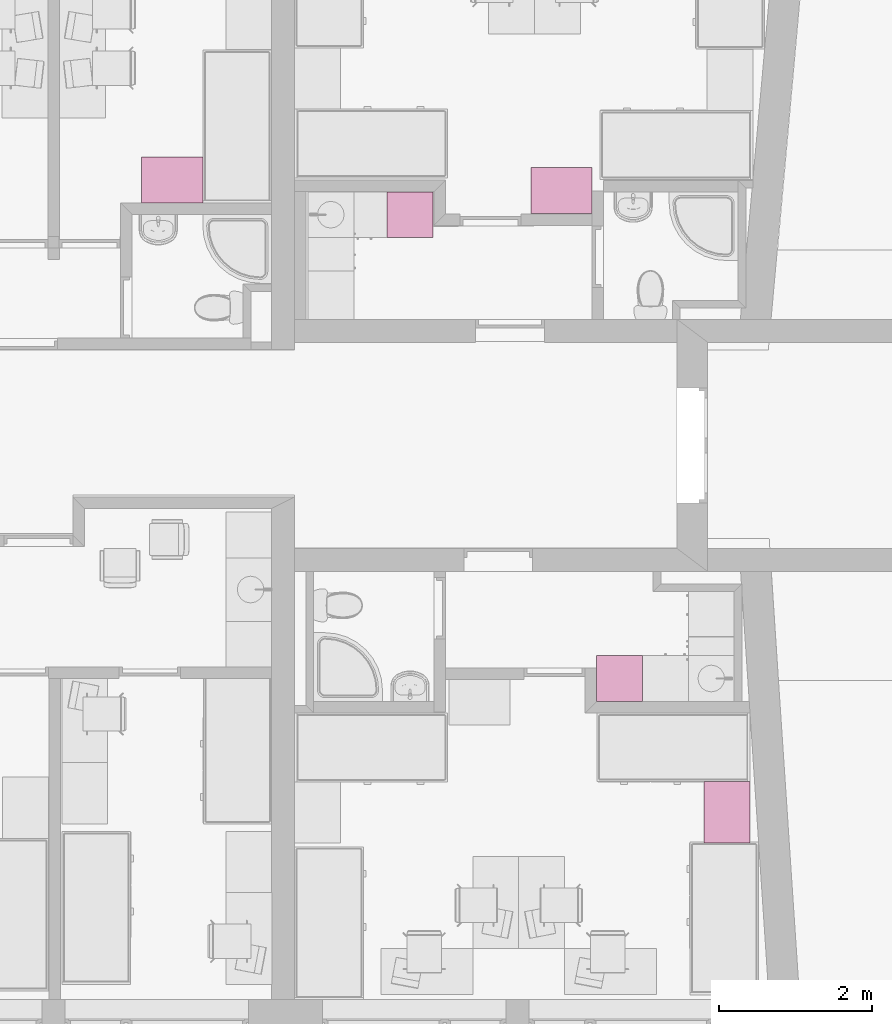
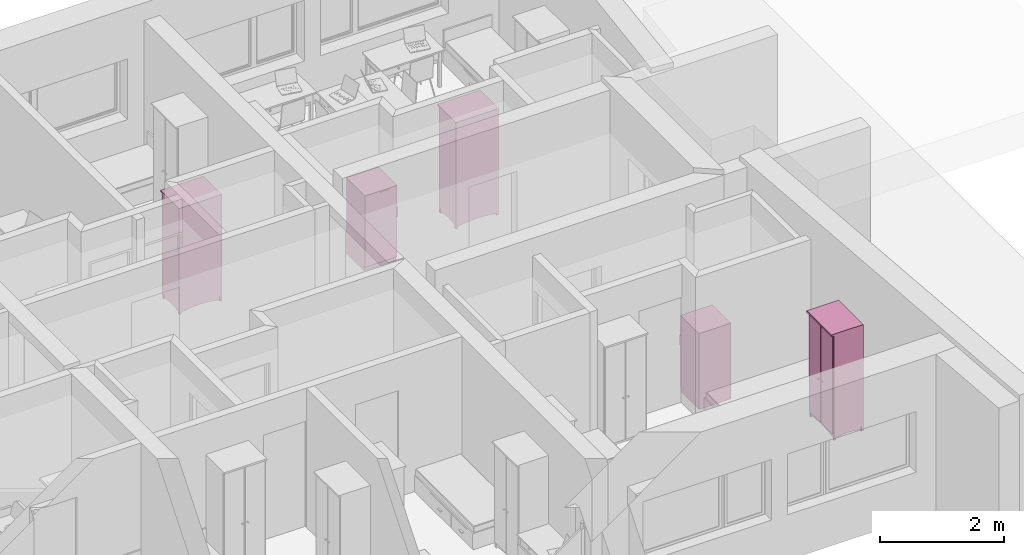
# One storey, part 149 of 172: 5 furnishings.
"""IFC2X3 building model written with IfcOpenShell, lengths in millimetres."""

from ifc_helpers import new_model, entity, si_unit, converted_unit, money_unit, direction, frame, origin_with_axes, place, context, subcontext, project, spatial, open_shell, faceted_brep, surface_model, source, transform, mapped, material, material_list, type_object, element, save


model = new_model("IFC2X3")

# Units and contexts
model_context = context("Model", 3, precision=1e-05, world=origin_with_axes(), true_north=direction((0.0, 1.0)))
body_context = subcontext(model_context, "Body", "Model", "MODEL_VIEW")
ifc_project = project(units=[si_unit("LENGTHUNIT", "METRE", prefix="MILLI"), si_unit("AREAUNIT", "SQUARE_METRE"), si_unit("VOLUMEUNIT", "CUBIC_METRE"), converted_unit("PLANEANGLEUNIT", "DEGREE", entity("IfcPlaneAngleMeasure", 0.0174532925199), si_unit("PLANEANGLEUNIT", "RADIAN"), dimensions=[0, 0, 0, 0, 0, 0, 0]), si_unit("SOLIDANGLEUNIT", "STERADIAN"), money_unit("USD"), converted_unit("TIMEUNIT", "Year", entity("IfcTimeMeasure", 31556926.0), si_unit("TIMEUNIT", "SECOND"), dimensions=[0, 0, 0, 0, 0, 0, 0]), si_unit("MASSUNIT", "GRAM"), si_unit("THERMODYNAMICTEMPERATUREUNIT", "DEGREE_CELSIUS"), si_unit("LUMINOUSINTENSITYUNIT", "LUMEN")], contexts=[model_context])

# Site, building, storey
site_placement = place(None, origin_with_axes())
site = spatial("IfcSite", under=ifc_project, at=site_placement, Name="Site", CompositionType="ELEMENT")
building_placement = place(site_placement, origin_with_axes())
building = spatial("IfcBuilding", under=site, at=building_placement, Name="Building", CompositionType="ELEMENT")
storey_placement = place(building_placement, frame((0.0, 0.0, 3200.0), z_axis=(0.0, 0.0, 1.0), x_axis=(1.0, 0.0, 0.0)))
storey = spatial("IfcBuildingStorey", under=building, at=storey_placement, Name="3KORRUS", CompositionType="ELEMENT", Elevation=3200.0)

# Furnishings
ifc_material = material(Name="Background")
ifc_material_list = material_list([ifc_material])
furnishing_element_type_1 = type_object("IfcFurnishingElementType", Name="Cupboard 19")
shared_shape_1 = source(origin_with_axes(), body_context, "Body", "Brep", [
    faceted_brep([(780.0, 600.0, 120.0), (780.0, 600.0, 2050.0), (780.0, 580.0, 2050.0), (780.0, 580.0, 120.0), (20.0, 600.0, 120.0), (20.0, 600.0, 2050.0), (20.0, 580.0, 2050.0), (20.0, 580.0, 120.0)], [[[0, 1, 2, 3]], [[4, 5, 1, 0]], [[1, 5, 6, 2]], [[3, 2, 6, 7]], [[0, 3, 7, 4]], [[7, 6, 5, 4]]]),
    faceted_brep([(0.0, 50.0, 100.0), (0.0, 600.0, 100.0), (20.0, 600.0, 100.0), (20.0, 50.0, 100.0), (0.0, 50.0, 2070.0), (0.0, 600.0, 2070.0), (20.0, 600.0, 2070.0), (20.0, 50.0, 2070.0)], [[[0, 1, 2, 3]], [[0, 4, 5, 1]], [[1, 5, 6, 2]], [[2, 6, 7, 3]], [[3, 7, 4, 0]], [[7, 6, 5, 4]]]),
    faceted_brep([(780.0, 50.0, 100.0), (780.0, 600.0, 100.0), (800.0, 600.0, 100.0), (800.0, 50.0, 100.0), (780.0, 50.0, 2070.0), (780.0, 600.0, 2070.0), (800.0, 600.0, 2070.0), (800.0, 50.0, 2070.0)], [[[0, 1, 2, 3]], [[0, 4, 5, 1]], [[1, 5, 6, 2]], [[2, 6, 7, 3]], [[3, 7, 4, 0]], [[7, 6, 5, 4]]]),
    faceted_brep([(20.0, 50.0, 100.0), (20.0, 600.0, 100.0), (780.0, 600.0, 100.0), (780.0, 50.0, 100.0), (20.0, 50.0, 120.0), (20.0, 600.0, 120.0), (780.0, 600.0, 120.0), (780.0, 50.0, 120.0)], [[[0, 1, 2, 3]], [[0, 4, 5, 1]], [[1, 5, 6, 2]], [[2, 6, 7, 3]], [[3, 7, 4, 0]], [[7, 6, 5, 4]]]),
    faceted_brep([(20.0, 50.0, 2050.0), (20.0, 600.0, 2050.0), (780.0, 600.0, 2050.0), (780.0, 50.0, 2050.0), (20.0, 50.0, 2070.0), (20.0, 600.0, 2070.0), (780.0, 600.0, 2070.0), (780.0, 50.0, 2070.0)], [[[0, 1, 2, 3]], [[0, 4, 5, 1]], [[1, 5, 6, 2]], [[2, 6, 7, 3]], [[3, 7, 4, 0]], [[7, 6, 5, 4]]]),
    faceted_brep([(0.0, 600.0, 2070.0), (0.0, 0.0, 2070.0), (0.0, 0.0, 2100.0), (0.0, 600.0, 2100.0), (800.0, 600.0, 2070.0), (800.0, 0.0, 2070.0), (800.0, 0.0, 2100.0), (800.0, 600.0, 2100.0)], [[[0, 1, 2, 3]], [[0, 4, 5, 1]], [[1, 5, 6, 2]], [[3, 2, 6, 7]], [[4, 0, 3, 7]], [[5, 4, 7, 6]]]),
    faceted_brep([(760.0, 590.0, 25.0), (760.0, 570.0, 25.0), (640.962, 570.0, 45.8), (640.962, 590.0, 45.8), (760.0, 590.0, 100.0), (760.0, 570.0, 100.0), (40.0, 570.0, 100.0), (40.0, 570.0, 25.0), (159.038, 570.0, 45.8), (279.23, 570.0, 58.32), (400.0, 570.0, 62.5), (520.77, 570.0, 58.32), (520.77, 590.0, 58.32), (400.0, 590.0, 62.5), (279.23, 590.0, 58.32), (159.038, 590.0, 45.8), (40.0, 590.0, 25.0), (40.0, 590.0, 100.0)], [[[0, 1, 2, 3]], [[4, 5, 1, 0]], [[1, 5, 6, 7, 8, 9, 10, 11, 2]], [[3, 2, 11, 12]], [[0, 3, 12, 13, 14, 15, 16, 17, 4]], [[17, 6, 5, 4]], [[16, 7, 6, 17]], [[15, 8, 7, 16]], [[14, 9, 8, 15]], [[13, 10, 9, 14]], [[12, 11, 10, 13]]]),
    faceted_brep([(760.0, 80.0, 25.0), (760.0, 60.0, 25.0), (640.962, 60.0, 45.8), (640.962, 80.0, 45.8), (760.0, 80.0, 100.0), (760.0, 60.0, 100.0), (40.0, 60.0, 100.0), (40.0, 60.0, 25.0), (159.038, 60.0, 45.8), (279.23, 60.0, 58.32), (400.0, 60.0, 62.5), (520.77, 60.0, 58.32), (520.77, 80.0, 58.32), (400.0, 80.0, 62.5), (279.23, 80.0, 58.32), (159.038, 80.0, 45.8), (40.0, 80.0, 25.0), (40.0, 80.0, 100.0)], [[[0, 1, 2, 3]], [[4, 5, 1, 0]], [[1, 5, 6, 7, 8, 9, 10, 11, 2]], [[3, 2, 11, 12]], [[0, 3, 12, 13, 14, 15, 16, 17, 4]], [[17, 6, 5, 4]], [[16, 7, 6, 17]], [[15, 8, 7, 16]], [[14, 9, 8, 15]], [[13, 10, 9, 14]], [[12, 11, 10, 13]]]),
    faceted_brep([(790.0, 90.0, 25.0), (770.0, 90.0, 25.0), (770.0, 141.266, 38.072), (790.0, 141.266, 38.072), (790.0, 90.0, 100.0), (770.0, 90.0, 100.0), (770.0, 560.0, 100.0), (770.0, 560.0, 25.0), (770.0, 508.734, 38.072), (770.0, 456.752, 47.92), (770.0, 404.257, 54.508), (770.0, 351.453, 57.808), (770.0, 298.547, 57.808), (770.0, 245.743, 54.508), (770.0, 193.248, 47.92), (790.0, 193.248, 47.92), (790.0, 245.743, 54.508), (790.0, 298.547, 57.808), (790.0, 351.453, 57.808), (790.0, 404.257, 54.508), (790.0, 456.752, 47.92), (790.0, 508.734, 38.072), (790.0, 560.0, 25.0), (790.0, 560.0, 100.0)], [[[0, 1, 2, 3]], [[4, 5, 1, 0]], [[1, 5, 6, 7, 8, 9, 10, 11, 12, 13, 14, 2]], [[3, 2, 14, 15]], [[0, 3, 15, 16, 17, 18, 19, 20, 21, 22, 23, 4]], [[23, 6, 5, 4]], [[22, 7, 6, 23]], [[21, 8, 7, 22]], [[20, 9, 8, 21]], [[19, 10, 9, 20]], [[18, 11, 10, 19]], [[17, 12, 11, 18]], [[16, 13, 12, 17]], [[15, 14, 13, 16]]]),
    faceted_brep([(30.0, 90.0, 25.0), (10.0, 90.0, 25.0), (10.0, 141.266, 38.072), (30.0, 141.266, 38.072), (30.0, 90.0, 100.0), (10.0, 90.0, 100.0), (10.0, 560.0, 100.0), (10.0, 560.0, 25.0), (10.0, 508.734, 38.072), (10.0, 456.752, 47.92), (10.0, 404.257, 54.508), (10.0, 351.453, 57.808), (10.0, 298.547, 57.808), (10.0, 245.743, 54.508), (10.0, 193.248, 47.92), (30.0, 193.248, 47.92), (30.0, 245.743, 54.508), (30.0, 298.547, 57.808), (30.0, 351.453, 57.808), (30.0, 404.257, 54.508), (30.0, 456.752, 47.92), (30.0, 508.734, 38.072), (30.0, 560.0, 25.0), (30.0, 560.0, 100.0)], [[[0, 1, 2, 3]], [[4, 5, 1, 0]], [[1, 5, 6, 7, 8, 9, 10, 11, 12, 13, 14, 2]], [[3, 2, 14, 15]], [[0, 3, 15, 16, 17, 18, 19, 20, 21, 22, 23, 4]], [[23, 6, 5, 4]], [[22, 7, 6, 23]], [[21, 8, 7, 22]], [[20, 9, 8, 21]], [[19, 10, 9, 20]], [[18, 11, 10, 19]], [[17, 12, 11, 18]], [[16, 13, 12, 17]], [[15, 14, 13, 16]]]),
    faceted_brep([(760.0, 560.0, 0.0), (760.0, 560.0, 100.0), (760.0, 600.0, 100.0), (760.0, 600.0, 0.0), (800.0, 560.0, 0.0), (800.0, 560.0, 100.0), (800.0, 600.0, 100.0), (800.0, 600.0, 0.0)], [[[0, 1, 2, 3]], [[4, 5, 1, 0]], [[1, 5, 6, 2]], [[3, 2, 6, 7]], [[0, 3, 7, 4]], [[7, 6, 5, 4]]]),
    faceted_brep([(0.0, 560.0, 0.0), (0.0, 560.0, 100.0), (0.0, 600.0, 100.0), (0.0, 600.0, 0.0), (40.0, 560.0, 0.0), (40.0, 560.0, 100.0), (40.0, 600.0, 100.0), (40.0, 600.0, 0.0)], [[[0, 1, 2, 3]], [[4, 5, 1, 0]], [[1, 5, 6, 2]], [[3, 2, 6, 7]], [[0, 3, 7, 4]], [[7, 6, 5, 4]]]),
    faceted_brep([(760.0, 50.0, 0.0), (760.0, 50.0, 100.0), (760.0, 90.0, 100.0), (760.0, 90.0, 0.0), (800.0, 50.0, 0.0), (800.0, 50.0, 100.0), (800.0, 90.0, 100.0), (800.0, 90.0, 0.0)], [[[0, 1, 2, 3]], [[4, 5, 1, 0]], [[1, 5, 6, 2]], [[3, 2, 6, 7]], [[0, 3, 7, 4]], [[7, 6, 5, 4]]]),
    faceted_brep([(0.0, 50.0, 0.0), (0.0, 50.0, 100.0), (0.0, 90.0, 100.0), (0.0, 90.0, 0.0), (40.0, 50.0, 0.0), (40.0, 50.0, 100.0), (40.0, 90.0, 100.0), (40.0, 90.0, 0.0)], [[[0, 1, 2, 3]], [[4, 5, 1, 0]], [[1, 5, 6, 2]], [[3, 2, 6, 7]], [[0, 3, 7, 4]], [[7, 6, 5, 4]]]),
    faceted_brep([(780.0, 580.0, 587.5), (780.0, 580.0, 607.5), (780.0, 50.0, 607.5), (780.0, 50.0, 587.5), (20.0, 580.0, 587.5), (20.0, 580.0, 607.5), (20.0, 50.0, 607.5), (20.0, 50.0, 587.5)], [[[0, 1, 2, 3]], [[4, 5, 1, 0]], [[1, 5, 6, 2]], [[3, 2, 6, 7]], [[0, 3, 7, 4]], [[7, 6, 5, 4]]]),
    faceted_brep([(780.0, 580.0, 1075.0), (780.0, 580.0, 1095.0), (780.0, 50.0, 1095.0), (780.0, 50.0, 1075.0), (20.0, 580.0, 1075.0), (20.0, 580.0, 1095.0), (20.0, 50.0, 1095.0), (20.0, 50.0, 1075.0)], [[[0, 1, 2, 3]], [[4, 5, 1, 0]], [[1, 5, 6, 2]], [[3, 2, 6, 7]], [[0, 3, 7, 4]], [[7, 6, 5, 4]]]),
    faceted_brep([(780.0, 580.0, 1562.5), (780.0, 580.0, 1582.5), (780.0, 50.0, 1582.5), (780.0, 50.0, 1562.5), (20.0, 580.0, 1562.5), (20.0, 580.0, 1582.5), (20.0, 50.0, 1582.5), (20.0, 50.0, 1562.5)], [[[0, 1, 2, 3]], [[4, 5, 1, 0]], [[1, 5, 6, 2]], [[3, 2, 6, 7]], [[0, 3, 7, 4]], [[7, 6, 5, 4]]]),
    faceted_brep([(789.5, 50.0, 110.5), (400.5, 50.0, 110.5), (400.5, 50.0, 2059.5), (789.5, 50.0, 2059.5), (789.5, 40.0, 110.5), (400.5, 40.0, 110.5), (400.5, 40.0, 2059.5), (789.5, 40.0, 2059.5), (779.5, 30.0, 120.5), (410.5, 30.0, 120.5), (410.5, 30.0, 2049.5), (779.5, 30.0, 2049.5)], [[[0, 1, 2, 3]], [[0, 4, 5, 1]], [[1, 5, 6, 2]], [[2, 6, 7, 3]], [[3, 7, 4, 0]], [[4, 8, 9, 5]], [[5, 9, 10, 6]], [[6, 10, 11, 7]], [[7, 11, 8, 4]], [[10, 9, 8, 11]]]),
    faceted_brep([(399.5, 50.0, 110.5), (10.5, 50.0, 110.5), (10.5, 50.0, 2059.5), (399.5, 50.0, 2059.5), (399.5, 40.0, 110.5), (10.5, 40.0, 110.5), (10.5, 40.0, 2059.5), (399.5, 40.0, 2059.5), (389.5, 30.0, 120.5), (20.5, 30.0, 120.5), (20.5, 30.0, 2049.5), (389.5, 30.0, 2049.5)], [[[0, 1, 2, 3]], [[0, 4, 5, 1]], [[1, 5, 6, 2]], [[2, 6, 7, 3]], [[3, 7, 4, 0]], [[4, 8, 9, 5]], [[5, 9, 10, 6]], [[6, 10, 11, 7]], [[7, 11, 8, 4]], [[10, 9, 8, 11]]]),
    faceted_brep([(339.608, 30.0, 954.0), (338.0, 30.0, 960.0), (339.608, 30.0, 966.0), (344.0, 30.0, 970.392), (350.0, 30.0, 972.0), (356.0, 30.0, 970.392), (360.392, 30.0, 966.0), (362.0, 30.0, 960.0), (360.392, 30.0, 954.0), (356.0, 30.0, 949.608), (350.0, 30.0, 948.0), (344.0, 30.0, 949.608), (339.608, 5.0, 954.0), (338.0, 5.0, 960.0), (339.608, 5.0, 966.0), (344.0, 5.0, 970.392), (350.0, 5.0, 972.0), (356.0, 5.0, 970.392), (360.392, 5.0, 966.0), (362.0, 5.0, 960.0), (360.392, 5.0, 954.0), (356.0, 5.0, 949.608), (350.0, 5.0, 948.0), (344.0, 5.0, 949.608)], [[[0, 1, 2, 3, 4, 5, 6, 7, 8, 9, 10, 11]], [[0, 12, 13, 1]], [[1, 13, 14, 2]], [[2, 14, 15, 3]], [[3, 15, 16, 4]], [[4, 16, 17, 5]], [[5, 17, 18, 6]], [[6, 18, 19, 7]], [[7, 19, 20, 8]], [[8, 20, 21, 9]], [[9, 21, 22, 10]], [[10, 22, 23, 11]], [[11, 23, 12, 0]], [[12, 23, 22, 21, 20, 19, 18, 17, 16, 15, 14, 13]]]),
    faceted_brep([(460.392, 30.0, 954.0), (456.0, 30.0, 949.608), (450.0, 30.0, 948.0), (444.0, 30.0, 949.608), (439.608, 30.0, 954.0), (438.0, 30.0, 960.0), (439.608, 30.0, 966.0), (444.0, 30.0, 970.392), (450.0, 30.0, 972.0), (456.0, 30.0, 970.392), (460.392, 30.0, 966.0), (462.0, 30.0, 960.0), (460.392, 5.0, 954.0), (456.0, 5.0, 949.608), (450.0, 5.0, 948.0), (444.0, 5.0, 949.608), (439.608, 5.0, 954.0), (438.0, 5.0, 960.0), (439.608, 5.0, 966.0), (444.0, 5.0, 970.392), (450.0, 5.0, 972.0), (456.0, 5.0, 970.392), (460.392, 5.0, 966.0), (462.0, 5.0, 960.0)], [[[0, 1, 2, 3, 4, 5, 6, 7, 8, 9, 10, 11]], [[1, 0, 12, 13]], [[2, 1, 13, 14]], [[3, 2, 14, 15]], [[4, 3, 15, 16]], [[5, 4, 16, 17]], [[6, 5, 17, 18]], [[7, 6, 18, 19]], [[8, 7, 19, 20]], [[9, 8, 20, 21]], [[10, 9, 21, 22]], [[11, 10, 22, 23]], [[0, 11, 23, 12]], [[12, 23, 22, 21, 20, 19, 18, 17, 16, 15, 14, 13]]]),
])
for number, where, z_axis, x_axis, name in (
    (1, (17368.0609283, -16788.0262806, 0.0), (0.0, 0.0, 1.0), (0.0, -1.0, 0.0), "FU - 014"),
    (2, (15903.8738504, -8755.99141655, 0.0), (0.0, 0.0, 1.0), (-1.0, 0.0, 0.0), "FU - 014"),
):
    element("IfcFurnishingElement", number, at=place(storey_placement, frame(where, z_axis=z_axis, x_axis=x_axis)), inside=storey, type_object=furnishing_element_type_1, material=ifc_material_list, Name=name, context=body_context, shape_type="MappedRepresentation", body=[
        mapped(shared_shape_1, transform((0.0, 0.0, 0.0))),
    ])
shared_shape_2 = source(origin_with_axes(), body_context, "Body", "Brep", [
    faceted_brep([(-780.0, 600.0, 120.0), (-780.0, 580.0, 120.0), (-780.0, 580.0, 2050.0), (-780.0, 600.0, 2050.0), (-20.0, 600.0, 120.0), (-20.0, 580.0, 120.0), (-20.0, 580.0, 2050.0), (-20.0, 600.0, 2050.0)], [[[0, 1, 2, 3]], [[0, 4, 5, 1]], [[1, 5, 6, 2]], [[3, 2, 6, 7]], [[4, 0, 3, 7]], [[5, 4, 7, 6]]]),
    faceted_brep([(0.0, 50.0, 100.0), (-20.0, 50.0, 100.0), (-20.0, 600.0, 100.0), (0.0, 600.0, 100.0), (0.0, 50.0, 2070.0), (-20.0, 50.0, 2070.0), (-20.0, 600.0, 2070.0), (0.0, 600.0, 2070.0)], [[[0, 1, 2, 3]], [[1, 0, 4, 5]], [[2, 1, 5, 6]], [[3, 2, 6, 7]], [[0, 3, 7, 4]], [[5, 4, 7, 6]]]),
    faceted_brep([(-780.0, 50.0, 100.0), (-800.0, 50.0, 100.0), (-800.0, 600.0, 100.0), (-780.0, 600.0, 100.0), (-780.0, 50.0, 2070.0), (-800.0, 50.0, 2070.0), (-800.0, 600.0, 2070.0), (-780.0, 600.0, 2070.0)], [[[0, 1, 2, 3]], [[1, 0, 4, 5]], [[2, 1, 5, 6]], [[3, 2, 6, 7]], [[0, 3, 7, 4]], [[5, 4, 7, 6]]]),
    faceted_brep([(-20.0, 50.0, 100.0), (-780.0, 50.0, 100.0), (-780.0, 600.0, 100.0), (-20.0, 600.0, 100.0), (-20.0, 50.0, 120.0), (-780.0, 50.0, 120.0), (-780.0, 600.0, 120.0), (-20.0, 600.0, 120.0)], [[[0, 1, 2, 3]], [[1, 0, 4, 5]], [[2, 1, 5, 6]], [[3, 2, 6, 7]], [[0, 3, 7, 4]], [[5, 4, 7, 6]]]),
    faceted_brep([(-20.0, 50.0, 2050.0), (-780.0, 50.0, 2050.0), (-780.0, 600.0, 2050.0), (-20.0, 600.0, 2050.0), (-20.0, 50.0, 2070.0), (-780.0, 50.0, 2070.0), (-780.0, 600.0, 2070.0), (-20.0, 600.0, 2070.0)], [[[0, 1, 2, 3]], [[1, 0, 4, 5]], [[2, 1, 5, 6]], [[3, 2, 6, 7]], [[0, 3, 7, 4]], [[5, 4, 7, 6]]]),
    faceted_brep([(0.0, 600.0, 2070.0), (0.0, 600.0, 2100.0), (0.0, 0.0, 2100.0), (0.0, 0.0, 2070.0), (-800.0, 600.0, 2070.0), (-800.0, 600.0, 2100.0), (-800.0, 0.0, 2100.0), (-800.0, 0.0, 2070.0)], [[[0, 1, 2, 3]], [[4, 5, 1, 0]], [[1, 5, 6, 2]], [[3, 2, 6, 7]], [[0, 3, 7, 4]], [[7, 6, 5, 4]]]),
    faceted_brep([(-760.0, 590.0, 25.0), (-640.962, 590.0, 45.8), (-640.962, 570.0, 45.8), (-760.0, 570.0, 25.0), (-760.0, 590.0, 100.0), (-40.0, 590.0, 100.0), (-40.0, 590.0, 25.0), (-159.038, 590.0, 45.8), (-279.23, 590.0, 58.32), (-400.0, 590.0, 62.5), (-520.77, 590.0, 58.32), (-520.77, 570.0, 58.32), (-400.0, 570.0, 62.5), (-279.23, 570.0, 58.32), (-159.038, 570.0, 45.8), (-40.0, 570.0, 25.0), (-40.0, 570.0, 100.0), (-760.0, 570.0, 100.0)], [[[0, 1, 2, 3]], [[0, 4, 5, 6, 7, 8, 9, 10, 1]], [[1, 10, 11, 2]], [[3, 2, 11, 12, 13, 14, 15, 16, 17]], [[4, 0, 3, 17]], [[5, 4, 17, 16]], [[6, 5, 16, 15]], [[7, 6, 15, 14]], [[8, 7, 14, 13]], [[9, 8, 13, 12]], [[10, 9, 12, 11]]]),
    faceted_brep([(-760.0, 80.0, 25.0), (-640.962, 80.0, 45.8), (-640.962, 60.0, 45.8), (-760.0, 60.0, 25.0), (-760.0, 80.0, 100.0), (-40.0, 80.0, 100.0), (-40.0, 80.0, 25.0), (-159.038, 80.0, 45.8), (-279.23, 80.0, 58.32), (-400.0, 80.0, 62.5), (-520.77, 80.0, 58.32), (-520.77, 60.0, 58.32), (-400.0, 60.0, 62.5), (-279.23, 60.0, 58.32), (-159.038, 60.0, 45.8), (-40.0, 60.0, 25.0), (-40.0, 60.0, 100.0), (-760.0, 60.0, 100.0)], [[[0, 1, 2, 3]], [[0, 4, 5, 6, 7, 8, 9, 10, 1]], [[1, 10, 11, 2]], [[3, 2, 11, 12, 13, 14, 15, 16, 17]], [[4, 0, 3, 17]], [[5, 4, 17, 16]], [[6, 5, 16, 15]], [[7, 6, 15, 14]], [[8, 7, 14, 13]], [[9, 8, 13, 12]], [[10, 9, 12, 11]]]),
    faceted_brep([(-790.0, 90.0, 25.0), (-790.0, 141.266, 38.072), (-770.0, 141.266, 38.072), (-770.0, 90.0, 25.0), (-790.0, 90.0, 100.0), (-790.0, 560.0, 100.0), (-790.0, 560.0, 25.0), (-790.0, 508.734, 38.072), (-790.0, 456.752, 47.92), (-790.0, 404.257, 54.508), (-790.0, 351.453, 57.808), (-790.0, 298.547, 57.808), (-790.0, 245.743, 54.508), (-790.0, 193.248, 47.92), (-770.0, 193.248, 47.92), (-770.0, 245.743, 54.508), (-770.0, 298.547, 57.808), (-770.0, 351.453, 57.808), (-770.0, 404.257, 54.508), (-770.0, 456.752, 47.92), (-770.0, 508.734, 38.072), (-770.0, 560.0, 25.0), (-770.0, 560.0, 100.0), (-770.0, 90.0, 100.0)], [[[0, 1, 2, 3]], [[0, 4, 5, 6, 7, 8, 9, 10, 11, 12, 13, 1]], [[1, 13, 14, 2]], [[3, 2, 14, 15, 16, 17, 18, 19, 20, 21, 22, 23]], [[4, 0, 3, 23]], [[5, 4, 23, 22]], [[6, 5, 22, 21]], [[7, 6, 21, 20]], [[8, 7, 20, 19]], [[9, 8, 19, 18]], [[10, 9, 18, 17]], [[11, 10, 17, 16]], [[12, 11, 16, 15]], [[13, 12, 15, 14]]]),
    faceted_brep([(-30.0, 90.0, 25.0), (-30.0, 141.266, 38.072), (-10.0, 141.266, 38.072), (-10.0, 90.0, 25.0), (-30.0, 90.0, 100.0), (-30.0, 560.0, 100.0), (-30.0, 560.0, 25.0), (-30.0, 508.734, 38.072), (-30.0, 456.752, 47.92), (-30.0, 404.257, 54.508), (-30.0, 351.453, 57.808), (-30.0, 298.547, 57.808), (-30.0, 245.743, 54.508), (-30.0, 193.248, 47.92), (-10.0, 193.248, 47.92), (-10.0, 245.743, 54.508), (-10.0, 298.547, 57.808), (-10.0, 351.453, 57.808), (-10.0, 404.257, 54.508), (-10.0, 456.752, 47.92), (-10.0, 508.734, 38.072), (-10.0, 560.0, 25.0), (-10.0, 560.0, 100.0), (-10.0, 90.0, 100.0)], [[[0, 1, 2, 3]], [[0, 4, 5, 6, 7, 8, 9, 10, 11, 12, 13, 1]], [[1, 13, 14, 2]], [[3, 2, 14, 15, 16, 17, 18, 19, 20, 21, 22, 23]], [[4, 0, 3, 23]], [[5, 4, 23, 22]], [[6, 5, 22, 21]], [[7, 6, 21, 20]], [[8, 7, 20, 19]], [[9, 8, 19, 18]], [[10, 9, 18, 17]], [[11, 10, 17, 16]], [[12, 11, 16, 15]], [[13, 12, 15, 14]]]),
    faceted_brep([(-760.0, 560.0, 0.0), (-760.0, 600.0, 0.0), (-760.0, 600.0, 100.0), (-760.0, 560.0, 100.0), (-800.0, 560.0, 0.0), (-800.0, 600.0, 0.0), (-800.0, 600.0, 100.0), (-800.0, 560.0, 100.0)], [[[0, 1, 2, 3]], [[0, 4, 5, 1]], [[1, 5, 6, 2]], [[3, 2, 6, 7]], [[4, 0, 3, 7]], [[5, 4, 7, 6]]]),
    faceted_brep([(0.0, 560.0, 0.0), (0.0, 600.0, 0.0), (0.0, 600.0, 100.0), (0.0, 560.0, 100.0), (-40.0, 560.0, 0.0), (-40.0, 600.0, 0.0), (-40.0, 600.0, 100.0), (-40.0, 560.0, 100.0)], [[[0, 1, 2, 3]], [[0, 4, 5, 1]], [[1, 5, 6, 2]], [[3, 2, 6, 7]], [[4, 0, 3, 7]], [[5, 4, 7, 6]]]),
    faceted_brep([(-760.0, 50.0, 0.0), (-760.0, 90.0, 0.0), (-760.0, 90.0, 100.0), (-760.0, 50.0, 100.0), (-800.0, 50.0, 0.0), (-800.0, 90.0, 0.0), (-800.0, 90.0, 100.0), (-800.0, 50.0, 100.0)], [[[0, 1, 2, 3]], [[0, 4, 5, 1]], [[1, 5, 6, 2]], [[3, 2, 6, 7]], [[4, 0, 3, 7]], [[5, 4, 7, 6]]]),
    faceted_brep([(0.0, 50.0, 0.0), (0.0, 90.0, 0.0), (0.0, 90.0, 100.0), (0.0, 50.0, 100.0), (-40.0, 50.0, 0.0), (-40.0, 90.0, 0.0), (-40.0, 90.0, 100.0), (-40.0, 50.0, 100.0)], [[[0, 1, 2, 3]], [[0, 4, 5, 1]], [[1, 5, 6, 2]], [[3, 2, 6, 7]], [[4, 0, 3, 7]], [[5, 4, 7, 6]]]),
    faceted_brep([(-780.0, 580.0, 587.5), (-780.0, 50.0, 587.5), (-780.0, 50.0, 607.5), (-780.0, 580.0, 607.5), (-20.0, 580.0, 587.5), (-20.0, 50.0, 587.5), (-20.0, 50.0, 607.5), (-20.0, 580.0, 607.5)], [[[0, 1, 2, 3]], [[0, 4, 5, 1]], [[1, 5, 6, 2]], [[3, 2, 6, 7]], [[4, 0, 3, 7]], [[5, 4, 7, 6]]]),
    faceted_brep([(-780.0, 580.0, 1075.0), (-780.0, 50.0, 1075.0), (-780.0, 50.0, 1095.0), (-780.0, 580.0, 1095.0), (-20.0, 580.0, 1075.0), (-20.0, 50.0, 1075.0), (-20.0, 50.0, 1095.0), (-20.0, 580.0, 1095.0)], [[[0, 1, 2, 3]], [[0, 4, 5, 1]], [[1, 5, 6, 2]], [[3, 2, 6, 7]], [[4, 0, 3, 7]], [[5, 4, 7, 6]]]),
    faceted_brep([(-780.0, 580.0, 1562.5), (-780.0, 50.0, 1562.5), (-780.0, 50.0, 1582.5), (-780.0, 580.0, 1582.5), (-20.0, 580.0, 1562.5), (-20.0, 50.0, 1562.5), (-20.0, 50.0, 1582.5), (-20.0, 580.0, 1582.5)], [[[0, 1, 2, 3]], [[0, 4, 5, 1]], [[1, 5, 6, 2]], [[3, 2, 6, 7]], [[4, 0, 3, 7]], [[5, 4, 7, 6]]]),
    faceted_brep([(-789.5, 50.0, 110.5), (-789.5, 50.0, 2059.5), (-400.5, 50.0, 2059.5), (-400.5, 50.0, 110.5), (-789.5, 40.0, 110.5), (-789.5, 40.0, 2059.5), (-400.5, 40.0, 2059.5), (-400.5, 40.0, 110.5), (-779.5, 30.0, 120.5), (-779.5, 30.0, 2049.5), (-410.5, 30.0, 2049.5), (-410.5, 30.0, 120.5)], [[[0, 1, 2, 3]], [[1, 0, 4, 5]], [[2, 1, 5, 6]], [[3, 2, 6, 7]], [[0, 3, 7, 4]], [[5, 4, 8, 9]], [[6, 5, 9, 10]], [[7, 6, 10, 11]], [[4, 7, 11, 8]], [[10, 9, 8, 11]]]),
    faceted_brep([(-399.5, 50.0, 110.5), (-399.5, 50.0, 2059.5), (-10.5, 50.0, 2059.5), (-10.5, 50.0, 110.5), (-399.5, 40.0, 110.5), (-399.5, 40.0, 2059.5), (-10.5, 40.0, 2059.5), (-10.5, 40.0, 110.5), (-389.5, 30.0, 120.5), (-389.5, 30.0, 2049.5), (-20.5, 30.0, 2049.5), (-20.5, 30.0, 120.5)], [[[0, 1, 2, 3]], [[1, 0, 4, 5]], [[2, 1, 5, 6]], [[3, 2, 6, 7]], [[0, 3, 7, 4]], [[5, 4, 8, 9]], [[6, 5, 9, 10]], [[7, 6, 10, 11]], [[4, 7, 11, 8]], [[10, 9, 8, 11]]]),
    faceted_brep([(-339.608, 30.0, 954.0), (-344.0, 30.0, 949.608), (-350.0, 30.0, 948.0), (-356.0, 30.0, 949.608), (-360.392, 30.0, 954.0), (-362.0, 30.0, 960.0), (-360.392, 30.0, 966.0), (-356.0, 30.0, 970.392), (-350.0, 30.0, 972.0), (-344.0, 30.0, 970.392), (-339.608, 30.0, 966.0), (-338.0, 30.0, 960.0), (-339.608, 5.0, 954.0), (-344.0, 5.0, 949.608), (-350.0, 5.0, 948.0), (-356.0, 5.0, 949.608), (-360.392, 5.0, 954.0), (-362.0, 5.0, 960.0), (-360.392, 5.0, 966.0), (-356.0, 5.0, 970.392), (-350.0, 5.0, 972.0), (-344.0, 5.0, 970.392), (-339.608, 5.0, 966.0), (-338.0, 5.0, 960.0)], [[[0, 1, 2, 3, 4, 5, 6, 7, 8, 9, 10, 11]], [[1, 0, 12, 13]], [[2, 1, 13, 14]], [[3, 2, 14, 15]], [[4, 3, 15, 16]], [[5, 4, 16, 17]], [[6, 5, 17, 18]], [[7, 6, 18, 19]], [[8, 7, 19, 20]], [[9, 8, 20, 21]], [[10, 9, 21, 22]], [[11, 10, 22, 23]], [[0, 11, 23, 12]], [[12, 23, 22, 21, 20, 19, 18, 17, 16, 15, 14, 13]]]),
    faceted_brep([(-460.392, 30.0, 954.0), (-462.0, 30.0, 960.0), (-460.392, 30.0, 966.0), (-456.0, 30.0, 970.392), (-450.0, 30.0, 972.0), (-444.0, 30.0, 970.392), (-439.608, 30.0, 966.0), (-438.0, 30.0, 960.0), (-439.608, 30.0, 954.0), (-444.0, 30.0, 949.608), (-450.0, 30.0, 948.0), (-456.0, 30.0, 949.608), (-460.392, 5.0, 954.0), (-462.0, 5.0, 960.0), (-460.392, 5.0, 966.0), (-456.0, 5.0, 970.392), (-450.0, 5.0, 972.0), (-444.0, 5.0, 970.392), (-439.608, 5.0, 966.0), (-438.0, 5.0, 960.0), (-439.608, 5.0, 954.0), (-444.0, 5.0, 949.608), (-450.0, 5.0, 948.0), (-456.0, 5.0, 949.608)], [[[0, 1, 2, 3, 4, 5, 6, 7, 8, 9, 10, 11]], [[0, 12, 13, 1]], [[1, 13, 14, 2]], [[2, 14, 15, 3]], [[3, 15, 16, 4]], [[4, 16, 17, 5]], [[5, 17, 18, 6]], [[6, 18, 19, 7]], [[7, 19, 20, 8]], [[8, 20, 21, 9]], [[9, 21, 22, 10]], [[10, 22, 23, 11]], [[11, 23, 12, 0]], [[12, 23, 22, 21, 20, 19, 18, 17, 16, 15, 14, 13]]]),
])
furnishing_placement = place(storey_placement, frame((10009.7032967, -8617.37850445, 0.0), z_axis=(0.0, 0.0, 1.0), x_axis=(-1.0, 0.0, 0.0)))
element("IfcFurnishingElement", 3, at=furnishing_placement, inside=storey, type_object=furnishing_element_type_1, material=ifc_material_list, Name="FU - 014", context=body_context, shape_type="MappedRepresentation", body=[
    mapped(shared_shape_2, transform((0.0, 0.0, 0.0))),
])
furnishing_element_type_2 = type_object("IfcFurnishingElementType", Name="Refrigerator 19")
shared_shape_3 = source(origin_with_axes(), body_context, "Body", "SurfaceModel", [
    faceted_brep([(0.0, 0.0, 1475.0), (600.0, 0.0, 1475.0), (600.0, 0.0, 1500.0), (0.0, 0.0, 1500.0), (0.0, 600.0, 1475.0), (600.0, 600.0, 1475.0), (600.0, 600.0, 1500.0), (0.0, 600.0, 1500.0)], [[[0, 1, 2, 3]], [[0, 4, 5, 1]], [[1, 5, 6, 2]], [[3, 2, 6, 7]], [[4, 0, 3, 7]], [[5, 4, 7, 6]]]),
    faceted_brep([(0.0, 65.0, 0.0), (600.0, 65.0, 0.0), (600.0, 65.0, 1475.0), (0.0, 65.0, 1475.0), (0.0, 600.0, 0.0), (600.0, 600.0, 0.0), (600.0, 600.0, 1475.0), (0.0, 600.0, 1475.0)], [[[0, 1, 2, 3]], [[0, 4, 5, 1]], [[1, 5, 6, 2]], [[3, 2, 6, 7]], [[4, 0, 3, 7]], [[5, 4, 7, 6]]]),
    faceted_brep([(0.0, 30.0, 0.0), (600.0, 30.0, 0.0), (600.0, 30.0, 90.0), (0.0, 30.0, 90.0), (0.0, 60.0, 0.0), (600.0, 60.0, 0.0), (600.0, 60.0, 90.0), (0.0, 60.0, 90.0)], [[[0, 1, 2, 3]], [[0, 4, 5, 1]], [[1, 5, 6, 2]], [[3, 2, 6, 7]], [[4, 0, 3, 7]], [[5, 4, 7, 6]]]),
    faceted_brep([(0.0, 60.0, 90.0), (600.0, 60.0, 90.0), (600.0, 0.0, 90.0), (0.0, 0.0, 90.0), (0.0, 60.0, 1474.5), (600.0, 60.0, 1474.5), (600.0, 0.0, 1474.5), (0.0, 0.0, 1474.5)], [[[0, 1, 2, 3]], [[0, 4, 5, 1]], [[1, 5, 6, 2]], [[3, 2, 6, 7]], [[4, 0, 3, 7]], [[5, 4, 7, 6]]]),
    surface_model("IfcShellBasedSurfaceModel", [(600.0, -30.0, 900.0), (600.0, -30.0, 1100.0), (600.0, 0.0, 1100.0), (600.0, 0.0, 900.0)], [open_shell([[[0, 1, 2, 3]]])]),
    surface_model("IfcShellBasedSurfaceModel", [(600.0, -30.0, 900.0), (600.0, -30.0, 1100.0), (570.0, -30.0, 1100.0), (570.0, -30.0, 900.0)], [open_shell([[[0, 1, 2, 3]]])]),
])
for number, where, z_axis, x_axis, name in (
    (4, (13222.3079419, -9670.3690093, 0.0), (0.0, 0.0, 1.0), (1.0, 0.0, 0.0), "FU - 007"),
    (5, (16561.5480058, -15138.0262806, 0.0), (0.0, 0.0, 1.0), (-1.0, 0.0, 0.0), "FU - 007"),
):
    element("IfcFurnishingElement", number, at=place(storey_placement, frame(where, z_axis=z_axis, x_axis=x_axis)), inside=storey, type_object=furnishing_element_type_2, material=ifc_material_list, Name=name, context=body_context, shape_type="MappedRepresentation", body=[
        mapped(shared_shape_3, transform((0.0, 0.0, 0.0))),
    ])

save(model, "model.ifc")
